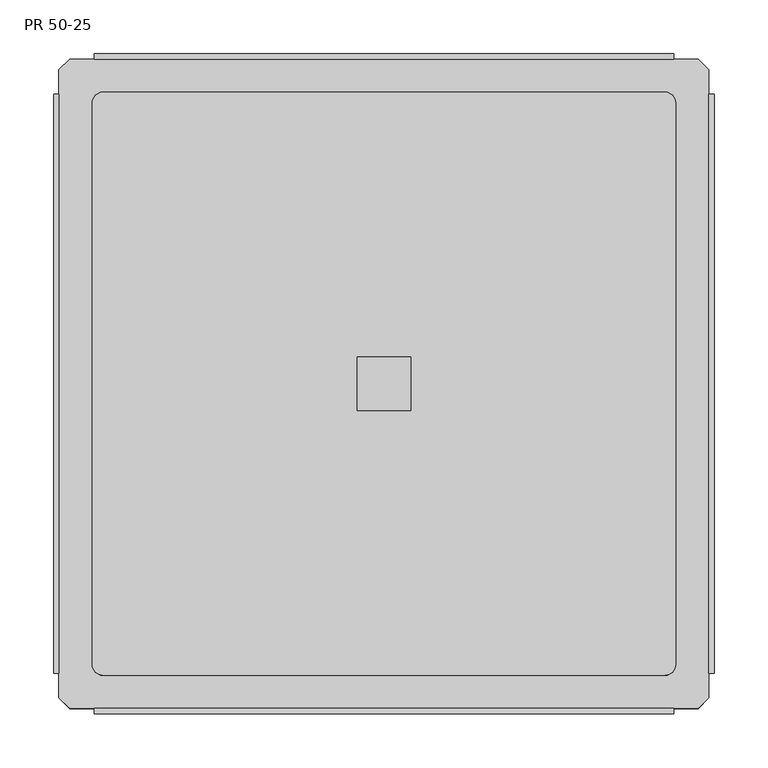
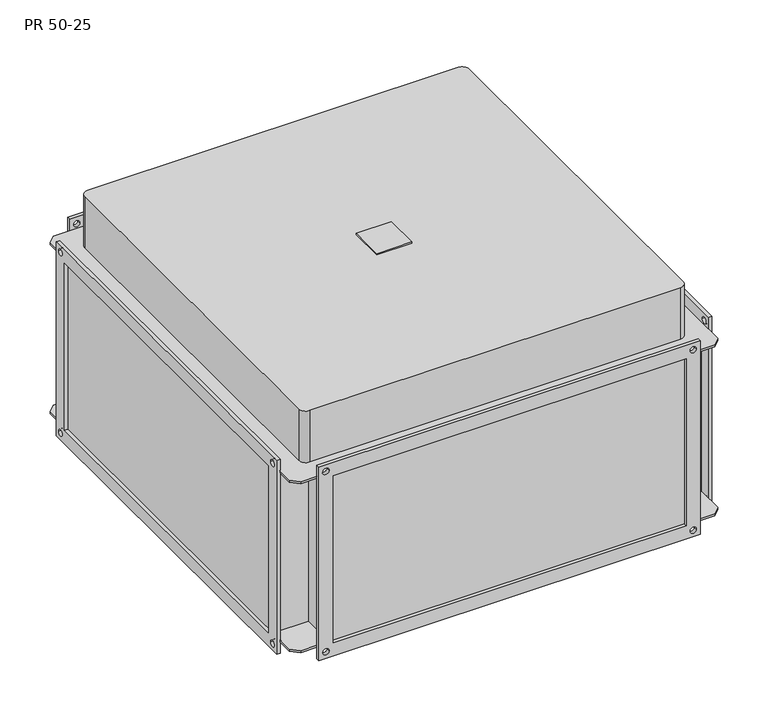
"""IFC4 building model written with IfcOpenShell, lengths in millimetres: proxy geometry, KORF_Рекуператор_Пластинчатый_PR : PR 50-25."""

from ifc_helpers import new_model, si_unit, point, frame, frame_2d, origin, place, context, project, spatial, polyline, circle_curve, trimmed, segment, composite_curve, outline, extrude, source, transform, mapped, element, save
from ifc_brep_helpers import plane_surface, cylinder_surface, revolved_surface, advanced_brep


def pr_50_25_8f3e1ca6(model_context):
    return source(origin(), model_context, "Body", "SolidModel", [
        extrude(outline(polyline([(283.0, -25.0), (283.0, 25.0), (333.0, 25.0), (333.0, -25.0), (283.0, -25.0)])), frame((0.0, 0.0, 205.0), z_axis=(0.0, 0.0, 1.0), x_axis=(1.0, 0.0, 0.0)), (0.0, 0.0, 1.0), 2.0),
        advanced_brep(
        [(558.0, -303.0, -125.0), (558.0, -303.0, 125.0), (58.0, -303.0, 125.0), (58.0, -303.0, -125.0), (558.0, 303.0, 125.0), (558.0, 303.0, -125.0), (58.0, 303.0, -125.0), (58.0, 303.0, 125.0), (15.0, 303.0, 128.0), (5.0, 293.0, 128.0), (5.0, -293.0, 128.0), (15.0, -303.0, 128.0), (38.0, -303.0, 128.0), (578.0, -303.0, 128.0), (601.0, -303.0, 128.0), (611.0, -293.0, 128.0), (611.0, 293.0, 128.0), (601.0, 303.0, 128.0), (578.0, 303.0, 128.0), (38.0, 303.0, 128.0), (46.0, 272.0, 128.0), (570.0, 272.0, 128.0), (580.0, 262.0, 128.0), (580.0, -262.0, 128.0), (570.0, -272.0, 128.0), (46.0, -272.0, 128.0), (36.0, -262.0, 128.0), (36.0, 262.0, 128.0), (55.0, -303.0, 125.0), (55.0, -253.0, 125.0), (55.0, -253.0, -125.0), (55.0, -303.0, -125.0), (55.0, 253.0, 125.0), (55.0, 303.0, 125.0), (55.0, 303.0, -125.0), (55.0, 253.0, -125.0), (5.0, 293.0, -128.0), (15.0, 303.0, -128.0), (38.0, 303.0, -128.0), (578.0, 303.0, -128.0), (601.0, 303.0, -128.0), (611.0, 293.0, -128.0), (611.0, -293.0, -128.0), (601.0, -303.0, -128.0), (578.0, -303.0, -128.0), (38.0, -303.0, -128.0), (15.0, -303.0, -128.0), (5.0, -293.0, -128.0), (561.0, -253.0, 125.0), (561.0, -303.0, 125.0), (561.0, -303.0, -125.0), (561.0, -253.0, -125.0), (561.0, 303.0, 125.0), (561.0, 253.0, 125.0), (561.0, 253.0, -125.0), (561.0, 303.0, -125.0), (611.0, 253.0, 125.0), (611.0, 293.0, 125.0), (611.0, -293.0, 125.0), (611.0, -253.0, 125.0), (611.0, -253.0, -125.0), (611.0, -293.0, -125.0), (611.0, 293.0, -125.0), (611.0, 253.0, -125.0), (5.0, 293.0, 125.0), (5.0, 253.0, 125.0), (5.0, 253.0, -125.0), (5.0, 293.0, -125.0), (5.0, -293.0, -125.0), (5.0, -253.0, -125.0), (5.0, -253.0, 125.0), (5.0, -293.0, 125.0), (578.0, 308.0, 145.0), (578.0, 308.0, -145.0), (38.0, 308.0, -145.0), (38.0, 308.0, 145.0), (558.0, 308.0, 125.0), (58.0, 308.0, 125.0), (58.0, 308.0, -125.0), (558.0, 308.0, -125.0), (43.5, 308.0, 135.0), (52.5, 308.0, 135.0), (563.5, 308.0, 135.0), (572.5, 308.0, 135.0), (563.5, 308.0, -135.0), (572.5, 308.0, -135.0), (43.5, 308.0, -135.0), (52.5, 308.0, -135.0), (578.0, 303.0, 145.0), (38.0, 303.0, 145.0), (43.5, 303.0, 135.0), (52.5, 303.0, 135.0), (563.5, 303.0, 135.0), (572.5, 303.0, 135.0), (38.0, 303.0, -145.0), (578.0, 303.0, -145.0), (563.5, 303.0, -135.0), (572.5, 303.0, -135.0), (43.5, 303.0, -135.0), (52.5, 303.0, -135.0), (38.0, 303.0, 125.0), (38.0, 303.0, -125.0), (578.0, 303.0, 125.0), (578.0, 303.0, -125.0), (578.0, -308.0, 145.0), (38.0, -308.0, 145.0), (38.0, -308.0, -145.0), (578.0, -308.0, -145.0), (558.0, -308.0, 125.0), (558.0, -308.0, -125.0), (58.0, -308.0, -125.0), (58.0, -308.0, 125.0), (563.5, -308.0, 135.0), (572.5, -308.0, 135.0), (563.5, -308.0, -135.0), (572.5, -308.0, -135.0), (43.5, -308.0, 135.0), (52.5, -308.0, 135.0), (43.5, -308.0, -135.0), (52.5, -308.0, -135.0), (578.0, -303.0, -145.0), (38.0, -303.0, -145.0), (563.5, -303.0, -135.0), (572.5, -303.0, -135.0), (43.5, -303.0, -135.0), (52.5, -303.0, -135.0), (38.0, -303.0, 145.0), (578.0, -303.0, 145.0), (563.5, -303.0, 135.0), (572.5, -303.0, 135.0), (43.5, -303.0, 135.0), (52.5, -303.0, 135.0), (38.0, -303.0, 125.0), (38.0, -303.0, -125.0), (578.0, -303.0, 125.0), (578.0, -303.0, -125.0), (601.0, -303.0, 125.0), (15.0, 303.0, 125.0), (601.0, 303.0, 125.0), (15.0, -303.0, 125.0), (601.0, 303.0, -125.0), (15.0, -303.0, -125.0), (15.0, 303.0, -125.0), (601.0, -303.0, -125.0), (570.0, 272.0, 205.0), (46.0, 272.0, 205.0), (36.0, 262.0, 205.0), (36.0, -262.0, 205.0), (46.0, -272.0, 205.0), (570.0, -272.0, 205.0), (580.0, -262.0, 205.0), (580.0, 262.0, 205.0)],
        [
            (0, 1),
            (1, 2),
            (2, 3),
            (3, 0),
            (4, 5),
            (5, 6),
            (6, 7),
            (7, 4),
            (8, 9),
            (9, 10),
            (10, 11),
            (11, 12),
            (12, 13),
            (13, 14),
            (14, 15),
            (15, 16),
            (16, 17),
            (17, 18),
            (18, 19),
            (19, 8),
            (20, 21),
            (21, 22, circle_curve(frame((570.0, 262.0, 128.0), z_axis=(0.0, 0.0, -1.0), x_axis=(1.0, 0.0, 0.0)), 10.0)),
            (22, 23),
            (23, 24, circle_curve(frame((570.0, -262.0, 128.0), z_axis=(0.0, 0.0, -1.0), x_axis=(1.0, 0.0, 0.0)), 10.0)),
            (24, 25),
            (25, 26, circle_curve(frame((46.0, -262.0, 128.0), z_axis=(0.0, 0.0, -1.0), x_axis=(1.0, 0.0, 0.0)), 10.0)),
            (26, 27),
            (27, 20, circle_curve(frame((46.0, 262.0, 128.0), z_axis=(0.0, 0.0, -1.0), x_axis=(1.0, 0.0, 0.0)), 10.0)),
            (28, 29),
            (29, 30),
            (30, 31),
            (31, 28),
            (32, 33),
            (33, 34),
            (34, 35),
            (35, 32),
            (36, 37),
            (37, 38),
            (38, 39),
            (39, 40),
            (40, 41),
            (41, 42),
            (42, 43),
            (43, 44),
            (44, 45),
            (45, 46),
            (46, 47),
            (47, 36),
            (48, 49),
            (49, 50),
            (50, 51),
            (51, 48),
            (52, 53),
            (53, 54),
            (54, 55),
            (55, 52),
            (56, 57),
            (57, 16),
            (15, 58),
            (58, 59),
            (59, 60),
            (60, 61),
            (61, 42),
            (41, 62),
            (62, 63),
            (63, 56),
            (64, 65),
            (65, 66),
            (66, 67),
            (67, 36),
            (47, 68),
            (68, 69),
            (69, 70),
            (70, 71),
            (71, 10),
            (9, 64),
            (29, 70),
            (69, 30),
            (59, 48),
            (51, 60),
            (65, 32),
            (35, 66),
            (53, 56),
            (63, 54),
            (72, 73),
            (73, 74),
            (74, 75),
            (75, 72),
            (76, 77),
            (77, 78),
            (78, 79),
            (79, 76),
            (80, 81, circle_curve(frame((48.0, 308.0, 135.0), z_axis=(0.0, -1.0, 0.0), x_axis=(1.0, 0.0, 0.0)), 4.5)),
            (81, 80, circle_curve(frame((48.0, 308.0, 135.0), z_axis=(0.0, -1.0, 0.0), x_axis=(1.0, 0.0, 0.0)), 4.5)),
            (82, 83, circle_curve(frame((568.0, 308.0, 135.0), z_axis=(0.0, -1.0, 0.0), x_axis=(1.0, 0.0, 0.0)), 4.5)),
            (83, 82, circle_curve(frame((568.0, 308.0, 135.0), z_axis=(0.0, -1.0, 0.0), x_axis=(1.0, 0.0, 0.0)), 4.5)),
            (84, 85, circle_curve(frame((568.0, 308.0, -135.0), z_axis=(0.0, -1.0, 0.0), x_axis=(1.0, 0.0, 0.0)), 4.5)),
            (85, 84, circle_curve(frame((568.0, 308.0, -135.0), z_axis=(0.0, -1.0, 0.0), x_axis=(1.0, 0.0, 0.0)), 4.5)),
            (86, 87, circle_curve(frame((48.0, 308.0, -135.0), z_axis=(0.0, -1.0, 0.0), x_axis=(1.0, 0.0, 0.0)), 4.5)),
            (87, 86, circle_curve(frame((48.0, 308.0, -135.0), z_axis=(0.0, -1.0, 0.0), x_axis=(1.0, 0.0, 0.0)), 4.5)),
            (88, 89),
            (89, 19),
            (18, 88),
            (90, 91, circle_curve(frame((48.0, 303.0, 135.0), z_axis=(0.0, 1.0, 0.0), x_axis=(1.0, 0.0, 0.0)), 4.5)),
            (91, 90, circle_curve(frame((48.0, 303.0, 135.0), z_axis=(0.0, 1.0, 0.0), x_axis=(1.0, 0.0, 0.0)), 4.5)),
            (92, 93, circle_curve(frame((568.0, 303.0, 135.0), z_axis=(0.0, 1.0, 0.0), x_axis=(1.0, 0.0, 0.0)), 4.5)),
            (93, 92, circle_curve(frame((568.0, 303.0, 135.0), z_axis=(0.0, 1.0, 0.0), x_axis=(1.0, 0.0, 0.0)), 4.5)),
            (94, 95),
            (95, 39),
            (38, 94),
            (96, 97, circle_curve(frame((568.0, 303.0, -135.0), z_axis=(0.0, 1.0, 0.0), x_axis=(1.0, 0.0, 0.0)), 4.5)),
            (97, 96, circle_curve(frame((568.0, 303.0, -135.0), z_axis=(0.0, 1.0, 0.0), x_axis=(1.0, 0.0, 0.0)), 4.5)),
            (98, 99, circle_curve(frame((48.0, 303.0, -135.0), z_axis=(0.0, 1.0, 0.0), x_axis=(1.0, 0.0, 0.0)), 4.5)),
            (99, 98, circle_curve(frame((48.0, 303.0, -135.0), z_axis=(0.0, 1.0, 0.0), x_axis=(1.0, 0.0, 0.0)), 4.5)),
            (33, 100),
            (100, 101),
            (101, 34),
            (102, 52),
            (55, 103),
            (103, 102),
            (75, 89),
            (88, 72),
            (74, 94),
            (38, 101),
            (100, 19),
            (73, 95),
            (18, 102),
            (103, 39),
            (79, 5),
            (4, 76),
            (78, 6),
            (77, 7),
            (104, 105),
            (105, 106),
            (106, 107),
            (107, 104),
            (108, 109),
            (109, 110),
            (110, 111),
            (111, 108),
            (112, 113, circle_curve(frame((568.0, -308.0, 135.0), z_axis=(0.0, 1.0, 0.0), x_axis=(1.0, 0.0, 0.0)), 4.5)),
            (113, 112, circle_curve(frame((568.0, -308.0, 135.0), z_axis=(0.0, 1.0, 0.0), x_axis=(1.0, 0.0, 0.0)), 4.5)),
            (114, 115, circle_curve(frame((568.0, -308.0, -135.0), z_axis=(0.0, 1.0, 0.0), x_axis=(1.0, 0.0, 0.0)), 4.5)),
            (115, 114, circle_curve(frame((568.0, -308.0, -135.0), z_axis=(0.0, 1.0, 0.0), x_axis=(1.0, 0.0, 0.0)), 4.5)),
            (116, 117, circle_curve(frame((48.0, -308.0, 135.0), z_axis=(0.0, 1.0, 0.0), x_axis=(1.0, 0.0, 0.0)), 4.5)),
            (117, 116, circle_curve(frame((48.0, -308.0, 135.0), z_axis=(0.0, 1.0, 0.0), x_axis=(1.0, 0.0, 0.0)), 4.5)),
            (118, 119, circle_curve(frame((48.0, -308.0, -135.0), z_axis=(0.0, 1.0, 0.0), x_axis=(1.0, 0.0, 0.0)), 4.5)),
            (119, 118, circle_curve(frame((48.0, -308.0, -135.0), z_axis=(0.0, 1.0, 0.0), x_axis=(1.0, 0.0, 0.0)), 4.5)),
            (120, 121),
            (121, 45),
            (44, 120),
            (122, 123, circle_curve(frame((568.0, -303.0, -135.0), z_axis=(0.0, -1.0, 0.0), x_axis=(1.0, 0.0, 0.0)), 4.5)),
            (123, 122, circle_curve(frame((568.0, -303.0, -135.0), z_axis=(0.0, -1.0, 0.0), x_axis=(1.0, 0.0, 0.0)), 4.5)),
            (124, 125, circle_curve(frame((48.0, -303.0, -135.0), z_axis=(0.0, -1.0, 0.0), x_axis=(1.0, 0.0, 0.0)), 4.5)),
            (125, 124, circle_curve(frame((48.0, -303.0, -135.0), z_axis=(0.0, -1.0, 0.0), x_axis=(1.0, 0.0, 0.0)), 4.5)),
            (126, 127),
            (127, 13),
            (12, 126),
            (128, 129, circle_curve(frame((568.0, -303.0, 135.0), z_axis=(0.0, -1.0, 0.0), x_axis=(1.0, 0.0, 0.0)), 4.5)),
            (129, 128, circle_curve(frame((568.0, -303.0, 135.0), z_axis=(0.0, -1.0, 0.0), x_axis=(1.0, 0.0, 0.0)), 4.5)),
            (130, 131, circle_curve(frame((48.0, -303.0, 135.0), z_axis=(0.0, -1.0, 0.0), x_axis=(1.0, 0.0, 0.0)), 4.5)),
            (131, 130, circle_curve(frame((48.0, -303.0, 135.0), z_axis=(0.0, -1.0, 0.0), x_axis=(1.0, 0.0, 0.0)), 4.5)),
            (132, 28),
            (31, 133),
            (133, 132),
            (49, 134),
            (134, 135),
            (135, 50),
            (104, 127),
            (126, 105),
            (12, 132),
            (133, 45),
            (121, 106),
            (120, 107),
            (44, 135),
            (134, 13),
            (108, 1),
            (0, 109),
            (3, 110),
            (2, 111),
            (81, 91),
            (90, 80),
            (83, 93),
            (92, 82),
            (85, 97),
            (96, 84),
            (87, 99),
            (98, 86),
            (112, 128),
            (129, 113),
            (114, 122),
            (123, 115),
            (116, 130),
            (131, 117),
            (118, 124),
            (125, 119),
            (58, 136),
            (136, 134),
            (64, 137),
            (137, 100),
            (138, 57),
            (102, 138),
            (139, 71),
            (132, 139),
            (137, 8),
            (138, 17),
            (139, 11),
            (136, 14),
            (62, 140),
            (140, 103),
            (68, 141),
            (141, 133),
            (142, 67),
            (101, 142),
            (143, 61),
            (135, 143),
            (37, 142),
            (40, 140),
            (46, 141),
            (43, 143),
            (144, 145),
            (145, 146, circle_curve(frame((46.0, 262.0, 205.0), z_axis=(0.0, 0.0, 1.0), x_axis=(1.0, 0.0, 0.0)), 10.0)),
            (146, 147),
            (147, 148, circle_curve(frame((46.0, -262.0, 205.0), z_axis=(0.0, 0.0, 1.0), x_axis=(1.0, 0.0, 0.0)), 10.0)),
            (148, 149),
            (149, 150, circle_curve(frame((570.0, -262.0, 205.0), z_axis=(0.0, 0.0, 1.0), x_axis=(1.0, 0.0, 0.0)), 10.0)),
            (150, 151),
            (151, 144, circle_curve(frame((570.0, 262.0, 205.0), z_axis=(0.0, 0.0, 1.0), x_axis=(1.0, 0.0, 0.0)), 10.0)),
            (144, 21),
            (20, 145),
            (27, 146),
            (26, 147),
            (25, 148),
            (24, 149),
            (23, 150),
            (22, 151),
        ],
        [
            plane_surface(frame((55.0, -303.0, 128.0), z_axis=(0.0, -1.0, 0.0), x_axis=(-1.0, 0.0, 0.0))),
            plane_surface(frame((55.0, 303.0, 128.0), z_axis=(0.0, 1.0, 0.0), x_axis=(1.0, 0.0, 0.0))),
            plane_surface(frame((561.0, -303.0, 128.0), z_axis=(0.0, 0.0, 1.0), x_axis=(0.0, 1.0, 0.0))),
            plane_surface(frame((55.0, -303.0, 128.0), z_axis=(-1.0, 0.0, 0.0), x_axis=(0.0, 1.0, 0.0))),
            plane_surface(frame((55.0, -303.0, -128.0), z_axis=(0.0, 0.0, -1.0), x_axis=(0.0, 1.0, 0.0))),
            plane_surface(frame((561.0, -303.0, -128.0), z_axis=(1.0, 0.0, 0.0), x_axis=(0.0, 1.0, 0.0))),
            plane_surface(frame((611.0, -253.0, 128.0), z_axis=(1.0, 0.0, 0.0), x_axis=(0.0, 0.0, -1.0))),
            plane_surface(frame((5.0, -253.0, 128.0), z_axis=(-1.0, 0.0, 0.0), x_axis=(0.0, 0.0, 1.0))),
            plane_surface(frame((611.0, -253.0, 128.0), z_axis=(0.0, -1.0, 0.0), x_axis=(-1.0, 0.0, 0.0))),
            plane_surface(frame((611.0, 253.0, -128.0), z_axis=(0.0, 1.0, 0.0), x_axis=(-1.0, 0.0, 0.0))),
            plane_surface(frame((38.0, 308.0, 145.0), z_axis=(0.0, 1.0, 0.0), x_axis=(1.0, 0.0, 0.0))),
            plane_surface(frame((38.0, 303.0, 145.0), z_axis=(0.0, -1.0, 0.0), x_axis=(-1.0, 0.0, 0.0))),
            plane_surface(frame((578.0, 303.0, 145.0), z_axis=(0.0, 0.0, 1.0), x_axis=(0.0, 1.0, 0.0))),
            plane_surface(frame((38.0, 303.0, 145.0), z_axis=(-1.0, 0.0, 0.0), x_axis=(0.0, 1.0, 0.0))),
            plane_surface(frame((38.0, 303.0, -145.0), z_axis=(0.0, 0.0, -1.0), x_axis=(0.0, 1.0, 0.0))),
            plane_surface(frame((578.0, 303.0, -145.0), z_axis=(1.0, 0.0, 0.0), x_axis=(0.0, 1.0, 0.0))),
            plane_surface(frame((558.0, 303.0, 125.0), z_axis=(-1.0, 0.0, 0.0), x_axis=(0.0, 1.0, 0.0))),
            plane_surface(frame((558.0, 303.0, -125.0), z_axis=(0.0, 0.0, 1.0), x_axis=(0.0, 1.0, 0.0))),
            plane_surface(frame((58.0, 303.0, -125.0), z_axis=(1.0, 0.0, 0.0), x_axis=(0.0, 1.0, 0.0))),
            plane_surface(frame((58.0, 303.0, 125.0), z_axis=(0.0, 0.0, -1.0), x_axis=(0.0, 1.0, 0.0))),
            plane_surface(frame((38.0, -308.0, 145.0), z_axis=(0.0, -1.0, 0.0), x_axis=(-1.0, 0.0, 0.0))),
            plane_surface(frame((38.0, -303.0, 145.0), z_axis=(0.0, 1.0, 0.0), x_axis=(1.0, 0.0, 0.0))),
            plane_surface(frame((578.0, -308.0, 145.0), z_axis=(0.0, 0.0, 1.0), x_axis=(0.0, 1.0, 0.0))),
            plane_surface(frame((38.0, -308.0, 145.0), z_axis=(-1.0, 0.0, 0.0), x_axis=(0.0, 1.0, 0.0))),
            plane_surface(frame((38.0, -308.0, -145.0), z_axis=(0.0, 0.0, -1.0), x_axis=(0.0, 1.0, 0.0))),
            plane_surface(frame((578.0, -308.0, -145.0), z_axis=(1.0, 0.0, 0.0), x_axis=(0.0, 1.0, 0.0))),
            plane_surface(frame((558.0, -308.0, 125.0), z_axis=(-1.0, 0.0, 0.0), x_axis=(0.0, 1.0, 0.0))),
            plane_surface(frame((558.0, -308.0, -125.0), z_axis=(0.0, 0.0, 1.0), x_axis=(0.0, 1.0, 0.0))),
            plane_surface(frame((58.0, -308.0, -125.0), z_axis=(1.0, 0.0, 0.0), x_axis=(0.0, 1.0, 0.0))),
            plane_surface(frame((58.0, -308.0, 125.0), z_axis=(0.0, 0.0, -1.0), x_axis=(0.0, 1.0, 0.0))),
            revolved_surface(polyline([(52.5, 308.0, 135.0), (52.5, 303.0, 135.0)]), (48.0, 0.0, 135.0), (0.0, 1.0, 0.0)),
            revolved_surface(polyline([(572.5, 308.0, 135.0), (572.5, 303.0, 135.0)]), (568.0, 0.0, 135.0), (0.0, 1.0, 0.0)),
            revolved_surface(polyline([(572.5, 308.0, -135.0), (572.5, 303.0, -135.0)]), (568.0, 0.0, -135.0), (0.0, 1.0, 0.0)),
            revolved_surface(polyline([(52.5, 308.0, -135.0), (52.5, 303.0, -135.0)]), (48.0, 0.0, -135.0), (0.0, 1.0, 0.0)),
            revolved_surface(polyline([(572.5, -303.0, 135.0), (572.5, -308.0, 135.0)]), (568.0, 0.0, 135.0), (0.0, 1.0, 0.0)),
            revolved_surface(polyline([(572.5, -303.0, -135.0), (572.5, -308.0, -135.0)]), (568.0, 0.0, -135.0), (0.0, 1.0, 0.0)),
            revolved_surface(polyline([(52.5, -303.0, 135.0), (52.5, -308.0, 135.0)]), (48.0, 0.0, 135.0), (0.0, 1.0, 0.0)),
            revolved_surface(polyline([(52.5, -303.0, -135.0), (52.5, -308.0, -135.0)]), (48.0, 0.0, -135.0), (0.0, 1.0, 0.0)),
            plane_surface(frame((55.0, 253.0, 125.0), z_axis=(0.0, 0.0, -1.0), x_axis=(0.0, -1.0, 0.0))),
            plane_surface(frame((55.0, 303.0, 128.0), z_axis=(0.0, 1.0, 0.0), x_axis=(0.0, 0.0, -1.0))),
            plane_surface(frame((15.0, 303.0, 128.0), z_axis=(-0.707106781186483, 0.7071067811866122, 0.0), x_axis=(0.0, 0.0, -1.0))),
            plane_surface(frame((611.0, 293.0, 128.0), z_axis=(0.7071067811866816, 0.7071067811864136, 0.0), x_axis=(0.0, 0.0, -1.0))),
            plane_surface(frame((601.0, 303.0, 128.0), z_axis=(0.0, 1.0, 0.0), x_axis=(0.0, 0.0, -1.0))),
            plane_surface(frame((5.0, -293.0, 128.0), z_axis=(-0.7071067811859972, -0.7071067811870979, 0.0), x_axis=(0.0, 0.0, -1.0))),
            plane_surface(frame((15.0, -303.0, 128.0), z_axis=(0.0, -1.0, 0.0), x_axis=(0.0, 0.0, -1.0))),
            plane_surface(frame((561.0, -303.0, 128.0), z_axis=(0.0, -1.0, 0.0), x_axis=(0.0, 0.0, -1.0))),
            plane_surface(frame((601.0, -303.0, 128.0), z_axis=(0.7071067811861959, -0.7071067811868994, 0.0), x_axis=(0.0, 0.0, -1.0))),
            plane_surface(frame((55.0, 253.0, -125.0), z_axis=(0.0, 0.0, 1.0), x_axis=(0.0, 1.0, 0.0))),
            plane_surface(frame((55.0, 303.0, -125.0), z_axis=(0.0, 1.0, 0.0), x_axis=(0.0, 0.0, -1.0))),
            plane_surface(frame((15.0, 303.0, -125.0), z_axis=(-0.7071067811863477, 0.7071067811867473, 0.0), x_axis=(0.0, 0.0, -1.0))),
            plane_surface(frame((611.0, 293.0, -125.0), z_axis=(0.7071067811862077, 0.7071067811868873, 0.0), x_axis=(0.0, 0.0, -1.0))),
            plane_surface(frame((601.0, 303.0, -125.0), z_axis=(0.0, 1.0, 0.0), x_axis=(0.0, 0.0, -1.0))),
            plane_surface(frame((5.0, -293.0, -125.0), z_axis=(-0.7071067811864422, -0.7071067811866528, 0.0), x_axis=(0.0, 0.0, -1.0))),
            plane_surface(frame((15.0, -303.0, -125.0), z_axis=(0.0, -1.0, 0.0), x_axis=(0.0, 0.0, -1.0))),
            plane_surface(frame((561.0, -303.0, -125.0), z_axis=(0.0, -1.0, 0.0), x_axis=(0.0, 0.0, -1.0))),
            plane_surface(frame((601.0, -303.0, -125.0), z_axis=(0.7071067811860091, -0.7071067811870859, 0.0), x_axis=(0.0, 0.0, -1.0))),
            plane_surface(frame((46.0, 272.0, 205.0), z_axis=(0.0, 0.0, 1.0), x_axis=(-1.0, 0.0, 0.0))),
            plane_surface(frame((570.0, 272.0, 205.0), z_axis=(0.0, 1.0, 0.0), x_axis=(0.0, 0.0, -1.0))),
            cylinder_surface(frame((46.0, 262.0, 128.0), z_axis=(0.0, 0.0, 1.0), x_axis=(1.0, 0.0, 0.0)), 10.0),
            plane_surface(frame((36.0, 262.0, 205.0), z_axis=(-1.0, 0.0, 0.0), x_axis=(0.0, 0.0, -1.0))),
            cylinder_surface(frame((46.0, -262.0, 128.0), z_axis=(0.0, 0.0, 1.0), x_axis=(1.0, 0.0, 0.0)), 10.0),
            plane_surface(frame((46.0, -272.0, 205.0), z_axis=(0.0, -1.0, 0.0), x_axis=(0.0, 0.0, -1.0))),
            cylinder_surface(frame((570.0, -262.0, 128.0), z_axis=(0.0, 0.0, 1.0), x_axis=(1.0, 0.0, 0.0)), 10.0),
            plane_surface(frame((580.0, -262.0, 205.0), z_axis=(1.0, 0.0, 0.0), x_axis=(0.0, 0.0, -1.0))),
            cylinder_surface(frame((570.0, 262.0, 128.0), z_axis=(0.0, 0.0, 1.0), x_axis=(1.0, 0.0, 0.0)), 10.0),
        ],
        [
            (0, [[1, 2, 3, 4]]),
            (1, [[5, 6, 7, 8]]),
            (2, [[9, 10, 11, 12, 13, 14, 15, 16, 17, 18, 19, 20], [21, 22, 23, 24, 25, 26, 27, 28]]),
            (3, [[29, 30, 31, 32]]),
            (3, [[33, 34, 35, 36]]),
            (4, [[37, 38, 39, 40, 41, 42, 43, 44, 45, 46, 47, 48]]),
            (5, [[49, 50, 51, 52]]),
            (5, [[53, 54, 55, 56]]),
            (6, [[57, 58, -16, 59, 60, 61, 62, 63, -42, 64, 65, 66]]),
            (7, [[67, 68, 69, 70, -48, 71, 72, 73, 74, 75, -10, 76]]),
            (8, [[77, -73, 78, -30]]),
            (8, [[79, -52, 80, -61]]),
            (9, [[81, -36, 82, -68]]),
            (9, [[83, -66, 84, -54]]),
            (10, [[85, 86, 87, 88], [89, 90, 91, 92], [93, 94], [95, 96], [97, 98], [99, 100]]),
            (11, [[101, 102, -19, 103], [104, 105], [106, 107]]),
            (11, [[108, 109, -39, 110], [111, 112], [113, 114]]),
            (11, [[115, 116, 117, -34]]),
            (11, [[118, -56, 119, 120]]),
            (12, [[-88, 121, -101, 122]]),
            (13, [[-87, 123, -110, 124, -116, 125, -102, -121]]),
            (14, [[-86, 126, -108, -123]]),
            (15, [[-85, -122, -103, 127, -120, 128, -109, -126]]),
            (16, [[-92, 129, -5, 130]]),
            (17, [[-91, 131, -6, -129]]),
            (18, [[-90, 132, -7, -131]]),
            (19, [[-89, -130, -8, -132]]),
            (20, [[133, 134, 135, 136], [137, 138, 139, 140], [141, 142], [143, 144], [145, 146], [147, 148]]),
            (21, [[149, 150, -45, 151], [152, 153], [154, 155]]),
            (21, [[156, 157, -13, 158], [159, 160], [161, 162]]),
            (21, [[163, -32, 164, 165]]),
            (21, [[166, 167, 168, -50]]),
            (22, [[-133, 169, -156, 170]]),
            (23, [[-134, -170, -158, 171, -165, 172, -150, 173]]),
            (24, [[-135, -173, -149, 174]]),
            (25, [[-136, -174, -151, 175, -167, 176, -157, -169]]),
            (26, [[-137, 177, -1, 178]]),
            (27, [[-138, -178, -4, 179]]),
            (28, [[-139, -179, -3, 180]]),
            (29, [[-140, -180, -2, -177]]),
            (30, [[-94, 181, -104, 182]]),
            (30, [[-93, -182, -105, -181]]),
            (31, [[-96, 183, -106, 184]]),
            (31, [[-95, -184, -107, -183]]),
            (32, [[-98, 185, -111, 186]]),
            (32, [[-97, -186, -112, -185]]),
            (33, [[-100, 187, -113, 188]]),
            (33, [[-99, -188, -114, -187]]),
            (34, [[-141, 189, -160, 190]]),
            (34, [[-142, -190, -159, -189]]),
            (35, [[-143, 191, -153, 192]]),
            (35, [[-144, -192, -152, -191]]),
            (36, [[-145, 193, -162, 194]]),
            (36, [[-146, -194, -161, -193]]),
            (37, [[-147, 195, -155, 196]]),
            (37, [[-148, -196, -154, -195]]),
            (38, [[-60, 197, 198, -166, -49, -79]]),
            (38, [[-67, 199, 200, -115, -33, -81]]),
            (38, [[201, -57, -83, -53, -118, 202]]),
            (38, [[203, -74, -77, -29, -163, 204]]),
            (39, [[205, -20, -125, -200]]),
            (40, [[-199, -76, -9, -205]]),
            (41, [[-201, 206, -17, -58]]),
            (42, [[-206, -202, -127, -18]]),
            (43, [[-203, 207, -11, -75]]),
            (44, [[-207, -204, -171, -12]]),
            (45, [[208, -14, -176, -198]]),
            (46, [[-197, -59, -15, -208]]),
            (47, [[-65, 209, 210, -119, -55, -84]]),
            (47, [[-72, 211, 212, -164, -31, -78]]),
            (47, [[213, -69, -82, -35, -117, 214]]),
            (47, [[215, -62, -80, -51, -168, 216]]),
            (48, [[217, -214, -124, -38]]),
            (49, [[-213, -217, -37, -70]]),
            (50, [[-209, -64, -41, 218]]),
            (51, [[-218, -40, -128, -210]]),
            (52, [[-211, -71, -47, 219]]),
            (53, [[-219, -46, -172, -212]]),
            (54, [[220, -216, -175, -44]]),
            (55, [[-215, -220, -43, -63]]),
            (56, [[221, 222, 223, 224, 225, 226, 227, 228]]),
            (57, [[-221, 229, -21, 230]]),
            (58, [[-222, -230, -28, 231]]),
            (59, [[-223, -231, -27, 232]]),
            (60, [[-224, -232, -26, 233]]),
            (61, [[-225, -233, -25, 234]]),
            (62, [[-226, -234, -24, 235]]),
            (63, [[-227, -235, -23, 236]]),
            (64, [[-228, -236, -22, -229]]),
        ],
    ),
        extrude(outline(polyline([(-270.0, 145.0), (270.0, 145.0), (270.0, -145.0), (-270.0, -145.0), (-270.0, 145.0)]), holes=[polyline([(-250.0, 125.0), (-250.0, -125.0), (250.0, -125.0), (250.0, 125.0), (-250.0, 125.0)]), composite_curve([segment(trimmed(circle_curve(frame_2d((260.0, 135.0)), 4.5), [point((255.5, 135.0))], [point((264.5, 135.0))], True, "CARTESIAN"), True, "CONTINUOUS"), segment(trimmed(circle_curve(frame_2d((260.0, 135.0)), 4.5), [point((264.5, 135.0))], [point((255.5, 135.0))], True, "CARTESIAN"), True, "CONTINUOUS")], self_intersect=False), composite_curve([segment(trimmed(circle_curve(frame_2d((-260.0, 135.0)), 4.5), [point((-264.5, 135.0))], [point((-255.5, 135.0))], True, "CARTESIAN"), True, "CONTINUOUS"), segment(trimmed(circle_curve(frame_2d((-260.0, 135.0)), 4.5), [point((-255.5, 135.0))], [point((-264.5, 135.0))], True, "CARTESIAN"), True, "CONTINUOUS")], self_intersect=False), composite_curve([segment(trimmed(circle_curve(frame_2d((-260.0, -135.0)), 4.5), [point((-264.5, -135.0))], [point((-255.5, -135.0))], True, "CARTESIAN"), True, "CONTINUOUS"), segment(trimmed(circle_curve(frame_2d((-260.0, -135.0)), 4.5), [point((-255.5, -135.0))], [point((-264.5, -135.0))], True, "CARTESIAN"), True, "CONTINUOUS")], self_intersect=False), composite_curve([segment(trimmed(circle_curve(frame_2d((260.0, -135.0)), 4.5), [point((255.5, -135.0))], [point((264.5, -135.0))], True, "CARTESIAN"), True, "CONTINUOUS"), segment(trimmed(circle_curve(frame_2d((260.0, -135.0)), 4.5), [point((264.5, -135.0))], [point((255.5, -135.0))], True, "CARTESIAN"), True, "CONTINUOUS")], self_intersect=False)]), frame((611.0, 0.0, 0.0), z_axis=(1.0, 0.0, 0.0), x_axis=(0.0, 1.0, 0.0)), (0.0, 0.0, 1.0), 5.0),
        advanced_brep(
        [(0.0, -270.0, 145.0), (0.0, 270.0, 145.0), (0.0, 270.0, -145.0), (0.0, -270.0, -145.0), (0.0, -250.0, 125.0), (0.0, -250.0, -125.0), (0.0, 250.0, -125.0), (0.0, 250.0, 125.0), (0.0, 255.5, 135.0), (0.0, 264.5, 135.0), (0.0, -264.5, 135.0), (0.0, -255.5, 135.0), (0.0, -264.5, -135.0), (0.0, -255.5, -135.0), (0.0, 255.5, -135.0), (0.0, 264.5, -135.0), (5.0, -270.0, 145.0), (5.0, -270.0, -145.0), (5.0, 270.0, -145.0), (5.0, 270.0, 145.0), (5.0, 264.5, 135.0), (5.0, 255.5, 135.0), (5.0, -255.5, 135.0), (5.0, -264.5, 135.0), (5.0, -255.5, -135.0), (5.0, -264.5, -135.0), (5.0, 264.5, -135.0), (5.0, 255.5, -135.0), (5.0, -250.0, -125.0), (5.0, -250.0, 125.0), (5.0, 250.0, 125.0), (5.0, 250.0, -125.0), (5.0, 250.0, 125.0), (5.0, -250.0, 125.0), (5.0, 250.0, -125.0), (5.0, -250.0, -125.0), (611.0, -250.0, 125.0), (611.0, -250.0, -125.0), (611.0, 250.0, 125.0), (611.0, 250.0, -125.0)],
        [
            (0, 1),
            (1, 2),
            (2, 3),
            (3, 0),
            (4, 5),
            (5, 6),
            (6, 7),
            (7, 4),
            (8, 9, circle_curve(frame((0.0, 260.0, 135.0), z_axis=(1.0, 0.0, 0.0), x_axis=(0.0, 1.0, 0.0)), 4.5)),
            (9, 8, circle_curve(frame((0.0, 260.0, 135.0), z_axis=(1.0, 0.0, 0.0), x_axis=(0.0, 1.0, 0.0)), 4.5)),
            (10, 11, circle_curve(frame((0.0, -260.0, 135.0), z_axis=(1.0, 0.0, 0.0), x_axis=(0.0, 1.0, 0.0)), 4.5)),
            (11, 10, circle_curve(frame((0.0, -260.0, 135.0), z_axis=(1.0, 0.0, 0.0), x_axis=(0.0, 1.0, 0.0)), 4.5)),
            (12, 13, circle_curve(frame((0.0, -260.0, -135.0), z_axis=(1.0, 0.0, 0.0), x_axis=(0.0, 1.0, 0.0)), 4.5)),
            (13, 12, circle_curve(frame((0.0, -260.0, -135.0), z_axis=(1.0, 0.0, 0.0), x_axis=(0.0, 1.0, 0.0)), 4.5)),
            (14, 15, circle_curve(frame((0.0, 260.0, -135.0), z_axis=(1.0, 0.0, 0.0), x_axis=(0.0, 1.0, 0.0)), 4.5)),
            (15, 14, circle_curve(frame((0.0, 260.0, -135.0), z_axis=(1.0, 0.0, 0.0), x_axis=(0.0, 1.0, 0.0)), 4.5)),
            (16, 17),
            (17, 18),
            (18, 19),
            (19, 16),
            (20, 21, circle_curve(frame((5.0, 260.0, 135.0), z_axis=(-1.0, 0.0, 0.0), x_axis=(0.0, 1.0, 0.0)), 4.5)),
            (21, 20, circle_curve(frame((5.0, 260.0, 135.0), z_axis=(-1.0, 0.0, 0.0), x_axis=(0.0, 1.0, 0.0)), 4.5)),
            (22, 23, circle_curve(frame((5.0, -260.0, 135.0), z_axis=(-1.0, 0.0, 0.0), x_axis=(0.0, 1.0, 0.0)), 4.5)),
            (23, 22, circle_curve(frame((5.0, -260.0, 135.0), z_axis=(-1.0, 0.0, 0.0), x_axis=(0.0, 1.0, 0.0)), 4.5)),
            (24, 25, circle_curve(frame((5.0, -260.0, -135.0), z_axis=(-1.0, 0.0, 0.0), x_axis=(0.0, 1.0, 0.0)), 4.5)),
            (25, 24, circle_curve(frame((5.0, -260.0, -135.0), z_axis=(-1.0, 0.0, 0.0), x_axis=(0.0, 1.0, 0.0)), 4.5)),
            (26, 27, circle_curve(frame((5.0, 260.0, -135.0), z_axis=(-1.0, 0.0, 0.0), x_axis=(0.0, 1.0, 0.0)), 4.5)),
            (27, 26, circle_curve(frame((5.0, 260.0, -135.0), z_axis=(-1.0, 0.0, 0.0), x_axis=(0.0, 1.0, 0.0)), 4.5)),
            (28, 29),
            (29, 30),
            (30, 31),
            (31, 28),
            (3, 17),
            (16, 0),
            (2, 18),
            (1, 19),
            (7, 32),
            (32, 33),
            (33, 4),
            (6, 34),
            (34, 32),
            (5, 35),
            (35, 34),
            (33, 35),
            (20, 9),
            (8, 21),
            (22, 11),
            (10, 23),
            (24, 13),
            (12, 25),
            (26, 15),
            (14, 27),
            (36, 29),
            (28, 37),
            (37, 36),
            (38, 39),
            (39, 31),
            (30, 38),
            (36, 38),
            (39, 37),
        ],
        [
            plane_surface(frame((0.0, -270.0, 145.0), z_axis=(-1.0, 0.0, 0.0), x_axis=(0.0, 0.0, 1.0))),
            plane_surface(frame((5.0, -270.0, 145.0), z_axis=(1.0, 0.0, 0.0), x_axis=(0.0, 0.0, -1.0))),
            plane_surface(frame((5.0, -270.0, 145.0), z_axis=(0.0, -1.0, 0.0), x_axis=(-1.0, 0.0, 0.0))),
            plane_surface(frame((5.0, -270.0, -145.0), z_axis=(0.0, 0.0, -1.0), x_axis=(-1.0, 0.0, 0.0))),
            plane_surface(frame((5.0, 270.0, -145.0), z_axis=(0.0, 1.0, 0.0), x_axis=(-1.0, 0.0, 0.0))),
            plane_surface(frame((5.0, 270.0, 145.0), z_axis=(0.0, 0.0, 1.0), x_axis=(-1.0, 0.0, 0.0))),
            plane_surface(frame((5.0, -250.0, 125.0), z_axis=(0.0, 0.0, -1.0), x_axis=(-1.0, 0.0, 0.0))),
            plane_surface(frame((5.0, 250.0, 125.0), z_axis=(0.0, -1.0, 0.0), x_axis=(-1.0, 0.0, 0.0))),
            plane_surface(frame((5.0, 250.0, -125.0), z_axis=(0.0, 0.0, 1.0), x_axis=(-1.0, 0.0, 0.0))),
            plane_surface(frame((5.0, -250.0, -125.0), z_axis=(0.0, 1.0, 0.0), x_axis=(-1.0, 0.0, 0.0))),
            revolved_surface(polyline([(5.0, 264.5, 135.0), (0.0, 264.5, 135.0)]), (0.0, 260.0, 135.0), (1.0, 0.0, 0.0)),
            revolved_surface(polyline([(5.0, -255.5, 135.0), (0.0, -255.5, 135.0)]), (0.0, -260.0, 135.0), (1.0, 0.0, 0.0)),
            revolved_surface(polyline([(5.0, -255.5, -135.0), (0.0, -255.5, -135.0)]), (0.0, -260.0, -135.0), (1.0, 0.0, 0.0)),
            revolved_surface(polyline([(5.0, 264.5, -135.0), (0.0, 264.5, -135.0)]), (0.0, 260.0, -135.0), (1.0, 0.0, 0.0)),
            plane_surface(frame((5.0, -250.0, 125.0), z_axis=(0.0, -1.0, 0.0), x_axis=(-1.0, 0.0, 0.0))),
            plane_surface(frame((5.0, 250.0, 125.0), z_axis=(0.0, 1.0, 0.0), x_axis=(1.0, 0.0, 0.0))),
            plane_surface(frame((611.0, -250.0, 125.0), z_axis=(0.0, 0.0, 1.0), x_axis=(0.0, 1.0, 0.0))),
            plane_surface(frame((5.0, -250.0, 125.0), z_axis=(-1.0, 0.0, 0.0), x_axis=(0.0, 1.0, 0.0))),
            plane_surface(frame((5.0, -250.0, -125.0), z_axis=(0.0, 0.0, -1.0), x_axis=(0.0, 1.0, 0.0))),
            plane_surface(frame((611.0, -250.0, -125.0), z_axis=(1.0, 0.0, 0.0), x_axis=(0.0, 1.0, 0.0))),
        ],
        [
            (0, [[1, 2, 3, 4], [5, 6, 7, 8], [9, 10], [11, 12], [13, 14], [15, 16]]),
            (1, [[17, 18, 19, 20], [21, 22], [23, 24], [25, 26], [27, 28], [29, 30, 31, 32]]),
            (2, [[-4, 33, -17, 34]]),
            (3, [[-3, 35, -18, -33]]),
            (4, [[-2, 36, -19, -35]]),
            (5, [[-1, -34, -20, -36]]),
            (6, [[-8, 37, 38, 39]]),
            (7, [[-7, 40, 41, -37]]),
            (8, [[-6, 42, 43, -40]]),
            (9, [[-5, -39, 44, -42]]),
            (10, [[45, -9, 46, -21]]),
            (10, [[-45, -22, -46, -10]]),
            (11, [[47, -11, 48, -23]]),
            (11, [[-47, -24, -48, -12]]),
            (12, [[49, -13, 50, -25]]),
            (12, [[-49, -26, -50, -14]]),
            (13, [[51, -15, 52, -27]]),
            (13, [[-51, -28, -52, -16]]),
            (14, [[53, -29, 54, 55]]),
            (15, [[56, 57, -31, 58]]),
            (16, [[-53, 59, -58, -30]]),
            (17, [[-38, -41, -43, -44]]),
            (18, [[-54, -32, -57, 60]]),
            (19, [[-55, -60, -56, -59]]),
        ],
    ),
    ])


if __name__ == "__main__":
    model = new_model("IFC4")
    model_context = context("Model", 3, world=origin())
    ifc_project = project(units=[si_unit("LENGTHUNIT", "METRE", prefix="MILLI")], contexts=[model_context])
    site = spatial("IfcSite", under=ifc_project)
    building = spatial("IfcBuilding", under=site)
    placement = place(None, origin())
    pr_50_25_shape = pr_50_25_8f3e1ca6(model_context)
    element("IfcBuildingElementProxy", 1, Name="KORF_Рекуператор_Пластинчатый_PR : PR 50-25", ObjectType="KORF_Рекуператор_Пластинчатый_PR : PR 50-25", at=placement, inside=building, context=model_context, shape_type="MappedRepresentation", body=[
        mapped(pr_50_25_shape, transform((0.0, 0.0, 0.0), x_axis=(1.0, 0.0, 0.0), y_axis=(0.0, 1.0, 0.0), z_axis=(0.0, 0.0, 1.0))),
    ])
    save(model, "model.ifc")
